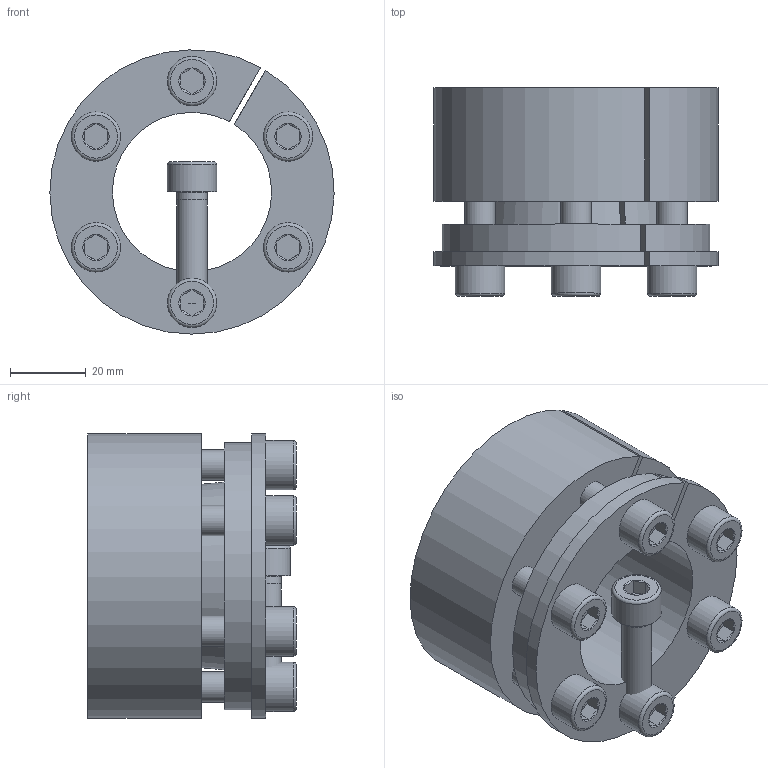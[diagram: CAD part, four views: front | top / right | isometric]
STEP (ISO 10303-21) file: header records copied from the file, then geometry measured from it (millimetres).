
FILE_DESCRIPTION( ( 'Unknown' ), '1' );
FILE_NAME( 'C:/Dokumente und Einstellungen/Sven/Desktop/homepage/cad - homepage/KBS70/KBS 70 - 42 x 75.stp', 'Unknown', ( 'Unknown' ), ( 'Unknown' ), 'XStep 1.0', 'Unknown', ' ' );
FILE_SCHEMA( ( 'automotive_design' ) );
Length unit declared in the file: millimetre
Products named in the file (3): Assem1; KBS 70 - 42 x 75; ISO EN DIN 4762 M8x30
Bounding box: 75 x 55 x 74.99 mm (x, y, z)
Volume: 236890.4 mm3; surface area: 77933.6 mm2
Topology: 9 solids, 9 shells, 227 faces, 467 edges, 286 vertices
Faces by surface type: plane 100, cylinder 60, cone 53, torus 14
Full cylindrical faces by diameter (mm): 7 x7, 8 x38, 13 x7
Entity records: 1694 total; most frequent: CARTESIAN_POINT 283, DIRECTION 256, ORIENTED_EDGE 190, AXIS2_PLACEMENT_3D 112, EDGE_LOOP 98, EDGE_CURVE 95, VERTEX_POINT 71, FACE_OUTER_BOUND 69
